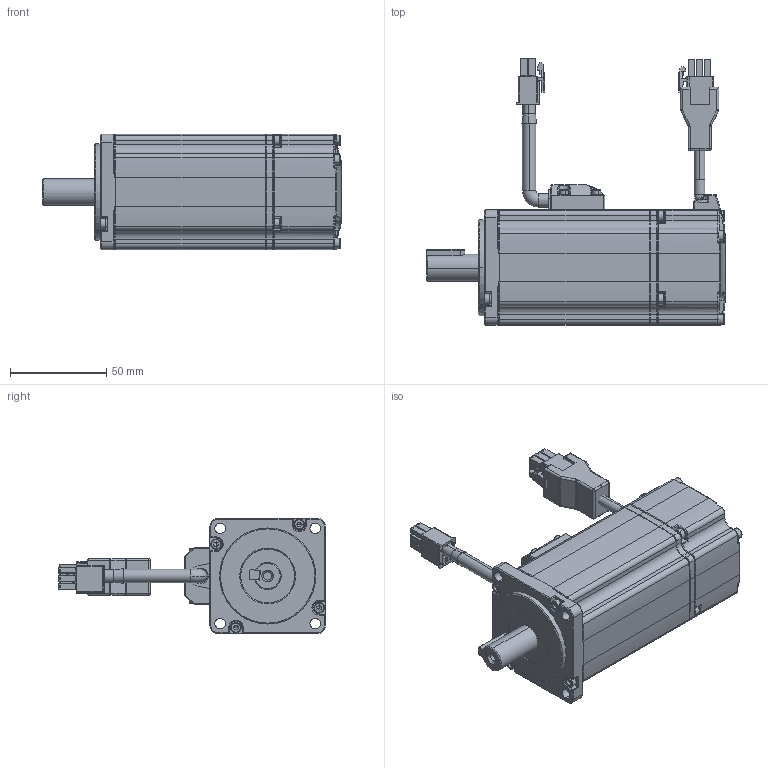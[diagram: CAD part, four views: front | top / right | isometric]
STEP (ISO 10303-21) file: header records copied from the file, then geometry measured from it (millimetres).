
FILE_DESCRIPTION (( 'STEP AP203' ), '1' );
FILE_NAME ('EM3A02A-100-A3-S（永磁交流伺服电机）.STEP', '2018-12-18T02:56:15', ( '' ), ( '' ), 'SwSTEP 2.0', 'SolidWorks 2016', '' );
FILE_SCHEMA (( 'CONFIG_CONTROL_DESIGN' ));
Length unit declared in the file: millimetre
Products named in the file (1): EM3A02A-100-A3-S（永磁交流伺服电机）
Bounding box: 155.5 x 138.7 x 60 mm (x, y, z)
Surface area: 54131.9 mm2 (no closed solid volume)
Topology: 0 solids, 59 shells, 1327 faces, 3829 edges, 2464 vertices
Faces by surface type: plane 508, cylinder 416, torus 141, cone 136, bspline 82, sphere 44
Entity records: 44507 total; most frequent: CARTESIAN_POINT 10369, DIRECTION 7387, ORIENTED_EDGE 6466, EDGE_CURVE 3771, AXIS2_PLACEMENT_3D 2667, VERTEX_POINT 2464, VECTOR 2053, LINE 2053
